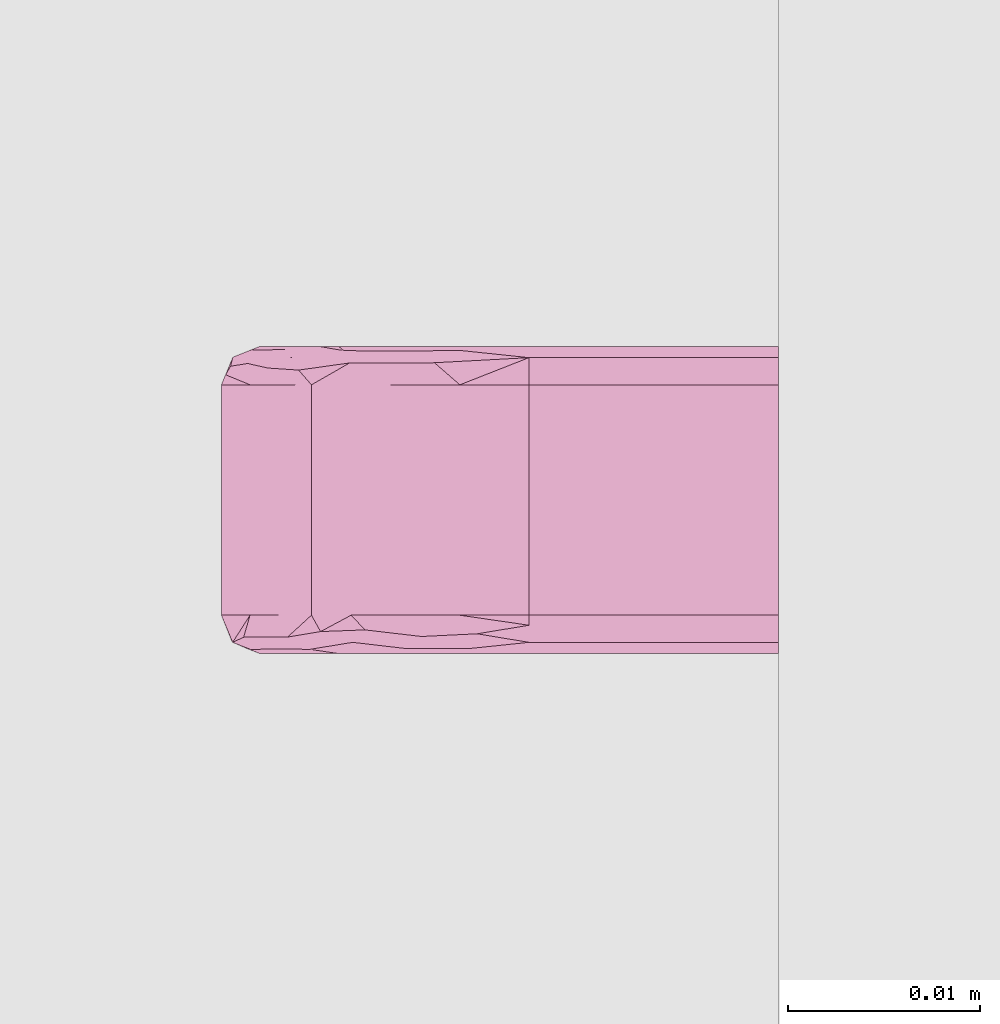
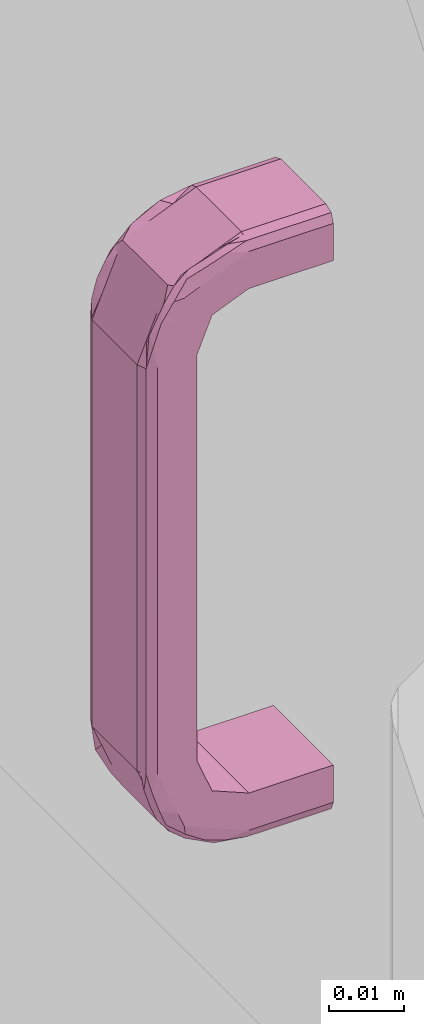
# One storey, part 61 of 65: 1 furnishing.
"""IFC2X3 building model written with IfcOpenShell, lengths in millimetres."""

from ifc_helpers import new_model, entity, si_unit, converted_unit, direction, frame, origin, place, context, subcontext, project, spatial, faceted_brep, source, transform, mapped, material, type_object, type_shapes, element, save


model = new_model("IFC2X3")

# Units and contexts
model_context = context("Model", 3, precision=0.01, world=origin(), true_north=direction((0.0, 1.0)))
body_context = subcontext(model_context, "Body", "Model", "MODEL_VIEW")
ifc_project = project(units=[si_unit("LENGTHUNIT", "METRE", prefix="MILLI"), si_unit("AREAUNIT", "SQUARE_METRE"), si_unit("VOLUMEUNIT", "CUBIC_METRE"), converted_unit("PLANEANGLEUNIT", "DEGREE", entity("IfcPlaneAngleMeasure", 0.017453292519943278), si_unit("PLANEANGLEUNIT", "RADIAN"), dimensions=[0, 0, 0, 0, 0, 0, 0])], contexts=[model_context])

# Site, building, storey, space
site_placement = place(None, origin())
site = spatial("IfcSite", under=ifc_project, at=site_placement, Name="Default", CompositionType="ELEMENT")
building_placement = place(site_placement, origin())
building = spatial("IfcBuilding", under=site, at=building_placement, CompositionType="ELEMENT")
storey_placement = place(building_placement, origin())
storey = spatial("IfcBuildingStorey", under=building, at=storey_placement, Name="Et. 1", CompositionType="ELEMENT", Elevation=0.0)
space_placement = place(storey_placement, origin())
space = spatial("IfcSpace", under=storey, at=space_placement, Name="113", CompositionType="ELEMENT", InteriorOrExteriorSpace="INTERNAL")

# Furnishing
ifc_material = material(Name="Focus - Kjøkken - Håndtak")
furniture_type = type_object("IfcFurnitureType", Name="Focus - Håndtak Skap:Håndtak skap", AssemblyPlace="NOTDEFINED", material=ifc_material)
shared_shape = source(origin(), body_context, "Body", "Brep", [
    faceted_brep([(-8.0, 0.0, 2.021099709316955), (-8.0, 0.0, -4.0210997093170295), (8.0, 0.0, -4.0210997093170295), (8.0, 0.0, 2.0210997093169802), (7.414213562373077, 0.0, 3.435313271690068), (6.0, 0.0, 4.021099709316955), (-6.0, 0.0, 4.021099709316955), (-7.414213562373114, 0.0, 3.435313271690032), (-6.0, 0.0, -94.02109970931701), (6.0, 0.0, -94.02109970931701), (7.414213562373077, 0.0, -93.43531327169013), (8.0, 0.0, -92.02109970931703), (8.0, 0.0, -85.97890029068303), (-8.0, 0.0, -85.97890029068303), (-8.0, 0.0, -92.02109970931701), (-7.414213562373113, 0.0, -93.43531327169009), (7.414213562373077, 13.0, 3.4353132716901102), (6.0, 13.0, 4.021099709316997), (8.0, 13.0, 2.0210997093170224), (7.707106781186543, 13.0, 2.728206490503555), (8.0, 13.0, -4.021099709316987), (8.0, 18.641934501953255, -6.358065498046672), (8.0, 20.97890029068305, -12.0), (8.0, 20.978900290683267, -78.0), (8.0, 18.64193450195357, -83.64193450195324), (8.0, 13.0, -85.97890029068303), (8.0, 13.0, -92.02109970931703), (8.0, 15.478603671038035, -90.99442845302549), (8.0, 17.957207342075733, -89.96775719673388), (8.0, 20.435811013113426, -88.94108594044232), (8.0, 22.914414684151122, -87.91441468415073), (8.0, 24.221910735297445, -84.75783998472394), (8.0, 25.52940678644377, -81.60126528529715), (8.0, 27.021099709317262, -78.0), (8.0, 27.021099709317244, -65.65496001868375), (8.0, 27.021099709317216, -57.34504034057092), (8.0, 27.02109970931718, -47.01756015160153), (8.0, 27.02109970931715, -36.69007996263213), (8.0, 27.021099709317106, -24.345039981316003), (8.0, 27.021099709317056, -12.0), (8.0, 25.994428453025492, -9.521396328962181), (8.0, 24.967757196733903, -7.042792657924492), (8.0, 23.941085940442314, -4.564188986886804), (8.0, 22.914414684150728, -2.0855853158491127), (8.0, 19.757839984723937, -0.7780892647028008), (8.0, 16.60126528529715, 0.5294067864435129), (-8.0, 13.0, -4.021099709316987), (-8.0, 13.0, -92.021099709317), (-8.0, 13.0, -85.97890029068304), (-8.0, 18.64193450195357, -83.64193450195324), (-8.0, 20.978900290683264, -78.0), (-8.0, 20.978900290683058, -12.0), (-8.0, 18.641934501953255, -6.358065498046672), (-8.0, 13.0, 2.0210997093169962), (-8.0, 15.478603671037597, 0.9944284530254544), (-8.0, 17.9572073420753, -0.032242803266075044), (-8.0, 20.435811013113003, -1.0589140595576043), (-8.0, 22.914414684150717, -2.0855853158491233), (-8.0, 24.221910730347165, -5.242160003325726), (-8.0, 25.529406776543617, -8.398734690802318), (-8.0, 27.021099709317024, -12.0), (-8.0, 27.021099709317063, -24.345040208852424), (-8.0, 27.0210997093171, -34.67252000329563), (-8.0, 27.02109970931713, -44.99999979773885), (-8.0, 27.021099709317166, -55.32747999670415), (-8.0, 27.0210997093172, -65.65496019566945), (-8.0, 27.021099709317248, -78.0), (-8.0, 25.99442845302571, -80.47860367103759), (-8.0, 24.967757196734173, -82.9572073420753), (-8.0, 23.941085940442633, -85.43581101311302), (-8.0, 22.914414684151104, -87.91441468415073), (-8.0, 19.757839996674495, -89.22191073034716), (-8.0, 16.601265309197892, -90.52940677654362), (-7.414213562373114, 13.0, 3.4353132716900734), (-6.0, 13.0, 4.021099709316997), (-6.523051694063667, 13.0, 3.804444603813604), (7.761199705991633, 19.75591670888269, 1.3575143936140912), (7.776828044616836, 22.64140257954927, -0.588486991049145), (7.832026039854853, 25.954055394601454, -4.794062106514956), (6.765366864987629, 25.00295364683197, -1.6197407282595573), (6.0, 25.18317105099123, -2.734420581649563), (6.0, 24.3286282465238, -0.6713717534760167), (7.148530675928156, 17.923500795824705, 2.864246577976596), (7.138822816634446, 22.341444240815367, 0.575216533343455), (6.0, 20.202530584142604, 1.03771385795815), (7.108929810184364, 27.65191997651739, -6.400304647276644), (6.0, 27.52940678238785, -8.39873470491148), (6.0, 26.674863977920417, -6.335685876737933), (6.0, 26.037713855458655, -4.797469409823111), (6.873580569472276, 26.59747716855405, -3.913704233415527), (6.0, 25.501746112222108, -3.5035288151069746), (7.807346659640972, 27.454202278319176, -8.476170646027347), (7.78360390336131, 16.52927433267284, 2.502698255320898), (6.0, 16.60126529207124, 2.529406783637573), (7.414213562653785, 25.4087319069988, -2.820007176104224), (6.0, 21.496471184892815, 0.5017461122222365), (6.968390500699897, 28.538770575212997, -9.30339655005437), (6.523051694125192, 28.80444460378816, -12.0), (6.0, 29.021099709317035, -12.0), (6.0, 27.847981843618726, -9.167842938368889), (7.414213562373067, 28.43531327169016, -12.0), (6.0, 18.664314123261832, 1.67486397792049), (-6.0, 15.832157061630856, 2.8479818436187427), (-6.0, 16.601265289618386, 2.529406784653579), (-7.76119969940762, 26.357514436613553, -5.2440833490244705), (-7.783603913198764, 27.502698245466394, -8.470725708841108), (-7.10892981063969, 18.599695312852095, 2.651919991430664), (-6.0, 18.664314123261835, 1.67486397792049), (-6.0, 20.202530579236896, 1.0377138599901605), (-7.744591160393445, 19.340507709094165, 1.5930015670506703), (-7.730939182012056, 16.04875454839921, 2.7104148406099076), (-6.76536686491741, 21.540484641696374, 1.3746327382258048), (-6.0, 21.496471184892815, 0.5017461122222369), (-6.0, 22.265579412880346, 0.18317105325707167), (-7.13882282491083, 25.57521654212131, -2.658555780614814), (-7.1485306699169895, 27.864246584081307, -7.076499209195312), (-6.0, 26.037713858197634, -4.797469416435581), (-7.414213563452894, 22.17999279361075, 0.4087319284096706), (-7.776828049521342, 24.411513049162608, -2.35859748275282), (-6.853012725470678, 23.855367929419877, -0.47819170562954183), (-6.0, 27.52940678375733, -8.398734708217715), (-7.414213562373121, 28.43531327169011, -12.0), (-6.0, 24.3286282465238, -0.6713717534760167), (-6.0, 25.501746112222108, -3.503528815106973), (-7.7071067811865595, 27.728206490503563, -12.0), (-6.96839049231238, 15.696603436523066, 3.5387705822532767), (-6.0, 29.021099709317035, -12.0), (-6.0, 26.674863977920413, -6.335685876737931), (7.414213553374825, 28.435313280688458, -29.508780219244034), (7.450985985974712, 28.39755881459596, -41.85381987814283), (6.0, 29.02109970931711, -34.6725200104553), (7.414213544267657, 28.435313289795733, -61.499999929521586), (7.4142135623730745, 28.435313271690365, -78.0), (6.0, 29.021099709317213, -65.65496164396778), (6.0, 29.02109970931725, -78.0), (6.0, 29.02109970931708, -24.345039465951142), (7.707106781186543, 27.728206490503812, -78.0), (6.0, 29.021099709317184, -55.32748109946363), (6.0, 29.02109970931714, -45.00000055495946), (-6.0, 29.02109970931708, -24.345039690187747), (-6.0, 29.02109970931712, -36.69007989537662), (-7.414213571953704, 28.43531326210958, -29.508780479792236), (-7.41421357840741, 28.435313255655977, -61.4999999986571), (-7.414213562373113, 28.43531327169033, -78.0), (-7.3764591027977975, 28.472085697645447, -41.85382016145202), (-6.0, 29.02109970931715, -47.0175595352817), (-6.0, 29.02109970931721, -65.65495979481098), (-6.0, 29.02109970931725, -78.0), (-6.523051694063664, 28.80444460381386, -78.0), (-6.0, 29.021099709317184, -57.345039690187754), (7.7611997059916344, 26.35751439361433, -84.75591670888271), (7.776828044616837, 24.411513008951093, -87.64140257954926), (7.832026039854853, 20.205937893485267, -90.95405539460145), (7.138822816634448, 25.575216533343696, -87.34144424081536), (6.7653668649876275, 23.380259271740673, -90.00295364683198), (6.0, 24.328628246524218, -89.32862824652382), (7.148530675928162, 27.864246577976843, -82.92350079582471), (6.0, 26.037713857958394, -85.2025305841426), (7.108929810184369, 18.599695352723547, -92.6519199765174), (6.0, 16.60126529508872, -92.52940678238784), (6.0, 18.66431412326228, -91.67486397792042), (6.0, 20.202530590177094, -91.03771385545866), (6.0, 22.265579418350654, -90.18317105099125), (7.807346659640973, 16.523829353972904, -92.45420227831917), (7.783603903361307, 27.50269825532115, -81.52927433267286), (6.0, 27.529406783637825, -81.60126529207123), (6.873580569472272, 21.08629576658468, -91.59747716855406), (7.414213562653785, 22.179992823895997, -90.40873190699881), (6.0, 25.50174611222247, -86.49647118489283), (6.968390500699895, 15.69660344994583, -93.538770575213), (6.52305169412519, 13.0, -93.80444460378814), (6.0, 13.0, -94.02109970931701), (6.0, 15.832157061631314, -92.84798184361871), (7.414213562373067, 13.0, -93.43531327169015), (6.0, 26.67486397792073, -83.66431412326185), (6.0, 21.49647118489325, -90.50174611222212), (-6.0, 27.847981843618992, -80.83215706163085), (-6.0, 27.529406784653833, -81.60126528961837), (-7.761199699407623, 19.75591665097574, -91.35751443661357), (-7.783603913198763, 16.529274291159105, -92.50269824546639), (-7.108929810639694, 27.651919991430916, -83.59969531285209), (-6.0, 26.674863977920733, -83.66431412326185), (-6.0, 26.037713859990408, -85.20253057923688), (-7.74459116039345, 26.593001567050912, -84.34050770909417), (-7.730939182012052, 27.71041484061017, -81.04875454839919), (-6.76536686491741, 26.374632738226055, -86.54048464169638), (-6.0, 25.50174611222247, -86.49647118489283), (-6.0, 25.183171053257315, -87.26557941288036), (-7.138822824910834, 22.341444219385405, -90.57521654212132), (-7.148530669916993, 17.923500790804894, -92.8642465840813), (-6.0, 20.202530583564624, -91.03771385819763), (-7.414213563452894, 25.40873192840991, -87.17999279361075), (-7.7768280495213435, 22.641402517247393, -89.41151304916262), (-6.853012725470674, 24.521808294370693, -88.8553679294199), (-6.0, 16.60126529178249, -92.52940678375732), (-7.41421356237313, 13.0, -93.43531327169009), (-6.0, 24.328628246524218, -89.32862824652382), (-6.0, 21.49647118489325, -90.50174611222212), (-7.707106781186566, 13.0, -92.72820649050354), (-6.96839049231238, 28.538770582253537, -80.69660343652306), (-6.0, 13.0, -94.02109970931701), (-6.0, 18.66431412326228, -91.67486397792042)], [[[0, 1, 2, 3, 4, 5, 6, 7]], [[8, 9, 10, 11, 12, 13, 14, 15]], [[5, 4, 16, 17]], [[3, 18, 19, 16, 4]], [[18, 3, 2, 20, 21, 22, 23, 24, 25, 12, 11, 26, 27, 28, 29, 30, 31, 32, 33, 34, 35, 36, 37, 38, 39, 40, 41, 42, 43, 44, 45]], [[20, 2, 1, 46]], [[47, 14, 13, 48, 49, 50, 51, 52, 46, 1, 0, 53, 54, 55, 56, 57, 58, 59, 60, 61, 62, 63, 64, 65, 66, 67, 68, 69, 70, 71, 72]], [[0, 7, 73, 53]], [[6, 74, 75, 73, 7]], [[17, 74, 6, 5]], [[76, 44, 77]], [[42, 41, 78]], [[79, 80, 81]], [[82, 83, 84]], [[85, 86, 87, 88]], [[89, 88, 90, 80]], [[78, 41, 91]], [[45, 76, 92]], [[82, 93, 16]], [[85, 89, 94]], [[83, 81, 95, 84]], [[96, 97, 86]], [[83, 82, 76]], [[78, 77, 42]], [[79, 94, 89]], [[42, 77, 43]], [[82, 16, 92]], [[92, 16, 19, 18]], [[97, 98, 99, 86]], [[91, 39, 100]], [[83, 76, 77]], [[92, 18, 45]], [[83, 77, 94]], [[43, 77, 44]], [[76, 45, 44]], [[92, 76, 82]], [[17, 16, 93]], [[82, 84, 101, 93]], [[79, 83, 94]], [[79, 81, 83]], [[79, 89, 80]], [[89, 85, 88]], [[78, 94, 77]], [[78, 85, 94]], [[85, 78, 91]], [[91, 96, 85]], [[40, 39, 91, 41]], [[100, 97, 96]], [[100, 96, 91]], [[85, 96, 86]], [[20, 46, 52, 21]], [[52, 51, 22, 21]], [[75, 74, 102, 103]], [[59, 104, 105]], [[106, 103, 107, 108]], [[106, 109, 110]], [[111, 108, 112, 113]], [[114, 115, 104]], [[116, 115, 114]], [[117, 56, 109]], [[104, 58, 118]], [[117, 109, 106]], [[111, 119, 117]], [[115, 120, 121]], [[114, 122, 123, 116]], [[119, 111, 113]], [[118, 117, 119]], [[56, 118, 57]], [[115, 121, 105]], [[105, 121, 124, 60]], [[73, 125, 110]], [[106, 110, 125]], [[114, 104, 118]], [[105, 60, 59]], [[119, 114, 118]], [[57, 118, 58]], [[104, 59, 58]], [[105, 104, 115]], [[126, 121, 120]], [[115, 116, 127, 120]], [[111, 106, 108]], [[111, 117, 106]], [[119, 122, 114]], [[122, 119, 113]], [[117, 118, 56]], [[73, 75, 125]], [[125, 75, 103]], [[106, 125, 103]], [[110, 53, 73]], [[109, 56, 55, 54]], [[54, 110, 109]], [[54, 53, 110]], [[123, 122, 81, 80, 90, 88, 87, 86, 99, 98, 126, 120, 127, 116]], [[81, 122, 113, 112, 108, 107, 103, 102, 74, 17, 93, 101, 84, 95]], [[100, 38, 37, 128]], [[128, 129, 130]], [[131, 129, 36]], [[131, 132, 133]], [[132, 134, 133]], [[135, 98, 97, 100]], [[135, 100, 128, 130]], [[131, 36, 35, 34]], [[34, 33, 136, 132]], [[100, 39, 38]], [[132, 131, 34]], [[131, 137, 129]], [[36, 129, 37]], [[129, 137, 138, 130]], [[129, 128, 37]], [[131, 133, 137]], [[23, 22, 51, 50]], [[121, 139, 140, 141]], [[142, 143, 65]], [[142, 144, 145]], [[146, 147, 148, 143]], [[121, 126, 139]], [[143, 66, 65]], [[61, 60, 124, 121]], [[61, 121, 141, 62]], [[142, 145, 149, 146]], [[141, 144, 62]], [[143, 142, 146]], [[142, 64, 144]], [[145, 144, 140]], [[144, 64, 63, 62]], [[144, 141, 140]], [[142, 65, 64]], [[126, 98, 135, 130, 138, 137, 133, 134, 147, 146, 149, 145, 140, 139]], [[150, 31, 151]], [[29, 28, 152]], [[153, 154, 155]], [[156, 153, 157]], [[158, 159, 160, 161]], [[162, 155, 154]], [[152, 28, 163]], [[32, 150, 164]], [[156, 165, 132]], [[158, 166, 167]], [[153, 155, 168, 157]], [[169, 170, 159]], [[153, 156, 150]], [[152, 151, 29]], [[154, 167, 166]], [[29, 151, 30]], [[156, 132, 164]], [[164, 132, 136, 33]], [[170, 171, 172, 159]], [[163, 26, 173]], [[153, 150, 151]], [[164, 33, 32]], [[153, 151, 167]], [[30, 151, 31]], [[150, 32, 31]], [[164, 150, 156]], [[134, 132, 165]], [[156, 157, 174, 165]], [[166, 161, 175, 162]], [[167, 154, 153]], [[154, 166, 162]], [[166, 158, 161]], [[152, 167, 151]], [[152, 158, 167]], [[158, 152, 163]], [[163, 169, 158]], [[27, 26, 163, 28]], [[173, 170, 169]], [[173, 169, 163]], [[158, 169, 159]], [[23, 50, 49, 24]], [[49, 48, 25, 24]], [[148, 147, 176, 177]], [[72, 178, 179]], [[180, 177, 181, 182]], [[180, 183, 184]], [[185, 182, 186, 187]], [[188, 189, 178]], [[190, 189, 188]], [[191, 69, 183]], [[178, 71, 192]], [[191, 183, 180]], [[185, 193, 191]], [[189, 194, 195]], [[188, 196, 197, 190]], [[193, 185, 187]], [[192, 191, 193]], [[69, 192, 70]], [[189, 195, 179]], [[179, 195, 198, 47]], [[143, 199, 184]], [[180, 184, 199]], [[188, 178, 192]], [[179, 47, 72]], [[193, 188, 192]], [[70, 192, 71]], [[178, 72, 71]], [[179, 178, 189]], [[200, 195, 194]], [[189, 190, 201, 194]], [[185, 180, 182]], [[185, 191, 180]], [[193, 196, 188]], [[196, 193, 187]], [[191, 192, 69]], [[143, 148, 199]], [[199, 148, 177]], [[180, 199, 177]], [[184, 66, 143]], [[183, 69, 68, 67]], [[67, 184, 183]], [[67, 66, 184]], [[197, 196, 155, 162, 175, 161, 160, 159, 172, 171, 200, 194, 201, 190]], [[155, 196, 187, 186, 182, 181, 177, 176, 147, 134, 165, 174, 157, 168]], [[171, 170, 173, 10, 9]], [[26, 11, 10, 173]], [[13, 12, 25, 48]], [[47, 198, 195, 15, 14]], [[200, 8, 15, 195]], [[8, 200, 171, 9]]]),
])
type_shapes(furniture_type, [shared_shape])
furnishing_placement = place(space_placement, frame((33549.00958675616, 10896.058719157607, 1440.0), z_axis=(0.0, 0.0, 1.0), x_axis=(0.0, 1.0, 0.0)))
element("IfcFurnishingElement", 1, at=furnishing_placement, inside=space, type_object=furniture_type, material=ifc_material, Name="Focus - Håndtak Skap:Håndtak skap", context=body_context, shape_type="MappedRepresentation", body=[
    mapped(shared_shape, transform((0.0, 0.0, 0.0), scale=1.0)),
])

save(model, "model.ifc")
